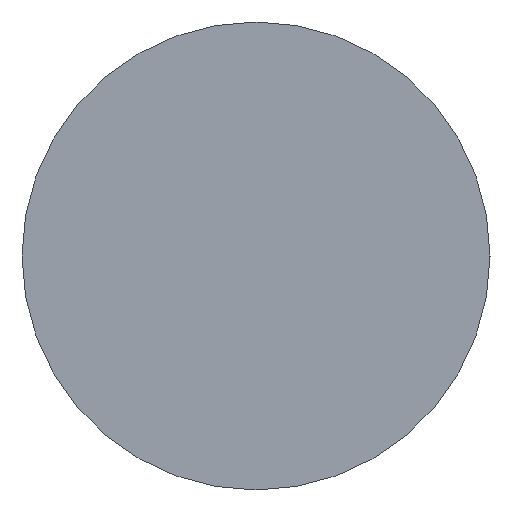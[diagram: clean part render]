
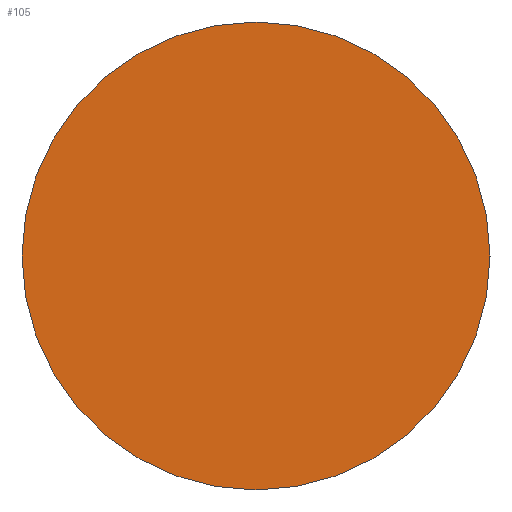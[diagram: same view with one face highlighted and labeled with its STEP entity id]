
A CAD part, left-side view. The second image highlights one B-rep face of the part: STEP entity #105.
In plain terms, the highlighted planar face has unit normal (-1, 0, 0).
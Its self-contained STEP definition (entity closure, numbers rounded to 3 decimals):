
#22 = VERTEX_POINT('',#23);
#23 = CARTESIAN_POINT('',(-4.8,1.,18.5));
#32 = CYLINDRICAL_SURFACE('',#33,1.);
#33 = AXIS2_PLACEMENT_3D('',#34,#35,#36);
#34 = CARTESIAN_POINT('',(-4.8,0.,18.5));
#35 = DIRECTION('',(-1.,-0.,-0.));
#36 = DIRECTION('',(0.,1.,0.));
#79 = EDGE_CURVE('',#22,#22,#80,.T.);
#80 = SURFACE_CURVE('',#81,(#86,#93),.PCURVE_S1.);
#81 = CIRCLE('',#82,1.);
#82 = AXIS2_PLACEMENT_3D('',#83,#84,#85);
#83 = CARTESIAN_POINT('',(-4.8,0.,18.5));
#84 = DIRECTION('',(1.,0.,0.));
#85 = DIRECTION('',(0.,1.,0.));
#86 = PCURVE('',#32,#87);
#87 = DEFINITIONAL_REPRESENTATION('',(#88),#92);
#88 = LINE('',#89,#90);
#89 = CARTESIAN_POINT('',(-0.,0.));
#90 = VECTOR('',#91,1.);
#91 = DIRECTION('',(-1.,0.));
#92 = ( GEOMETRIC_REPRESENTATION_CONTEXT(2) 
PARAMETRIC_REPRESENTATION_CONTEXT() REPRESENTATION_CONTEXT('2D SPACE',''
  ) );
#93 = PCURVE('',#94,#99);
#94 = PLANE('',#95);
#95 = AXIS2_PLACEMENT_3D('',#96,#97,#98);
#96 = CARTESIAN_POINT('',(-4.8,0.,18.5));
#97 = DIRECTION('',(1.,0.,0.));
#98 = DIRECTION('',(-0.,0.,1.));
#99 = DEFINITIONAL_REPRESENTATION('',(#100),#104);
#100 = CIRCLE('',#101,1.);
#101 = AXIS2_PLACEMENT_2D('',#102,#103);
#102 = CARTESIAN_POINT('',(0.,0.));
#103 = DIRECTION('',(0.,-1.));
#104 = ( GEOMETRIC_REPRESENTATION_CONTEXT(2) 
PARAMETRIC_REPRESENTATION_CONTEXT() REPRESENTATION_CONTEXT('2D SPACE',''
  ) );
#105 = ADVANCED_FACE('',(#106),#94,.F.);
#106 = FACE_BOUND('',#107,.F.);
#107 = EDGE_LOOP('',(#108));
#108 = ORIENTED_EDGE('',*,*,#79,.T.);
